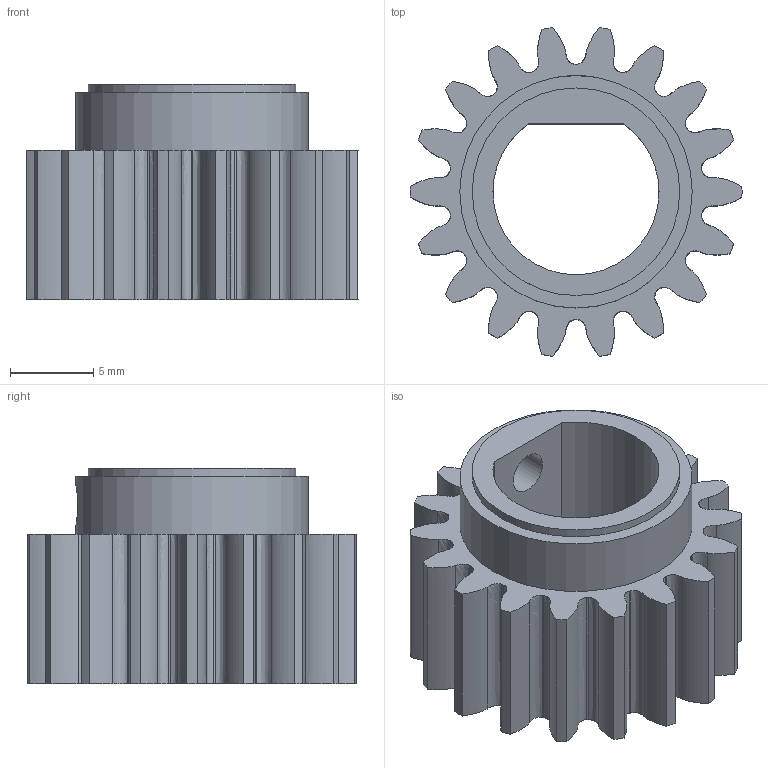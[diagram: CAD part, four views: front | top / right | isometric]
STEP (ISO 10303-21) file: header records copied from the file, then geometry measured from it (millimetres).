
FILE_DESCRIPTION(('Open CASCADE Model'),'2;1');
FILE_NAME('05_Gear3_z18_m1.0','2026-10-20T19:44:37',('Author'),( 'Open CASCADE'),'Open CASCADE STEP processor 8.0','build123d', 'Unknown');
FILE_SCHEMA(('AUTOMOTIVE_DESIGN { 1 0 10303 214 1 1 1 1 }'));
Length unit declared in the file: millimetre
Products named in the file (2): 05_Gear3_z18_m1.0
Assembly tree (1 placements, depth 2):
  05_Gear3_z18_m1.0
    05_Gear3_z18_m1.0
Bounding box: 20 x 19.8 x 13 mm (x, y, z)
Volume: 1836.8 mm3; surface area: 1936.5 mm2
Topology: 1 solids, 1 shells, 123 faces, 357 edges, 238 vertices
Faces by surface type: extrusion 72, cylinder 43, plane 8
Full cylindrical faces by diameter (mm): 2.5 x1, 12.5 x1, 14 x1
Entity records: 12992 total; most frequent: CARTESIAN_POINT 6307, DIRECTION 1019, ORIENTED_EDGE 714, PCURVE 714, DEFINITIONAL_REPRESENTATION 714, VECTOR 666, LINE 594, B_SPLINE_CURVE_WITH_KNOTS 379
